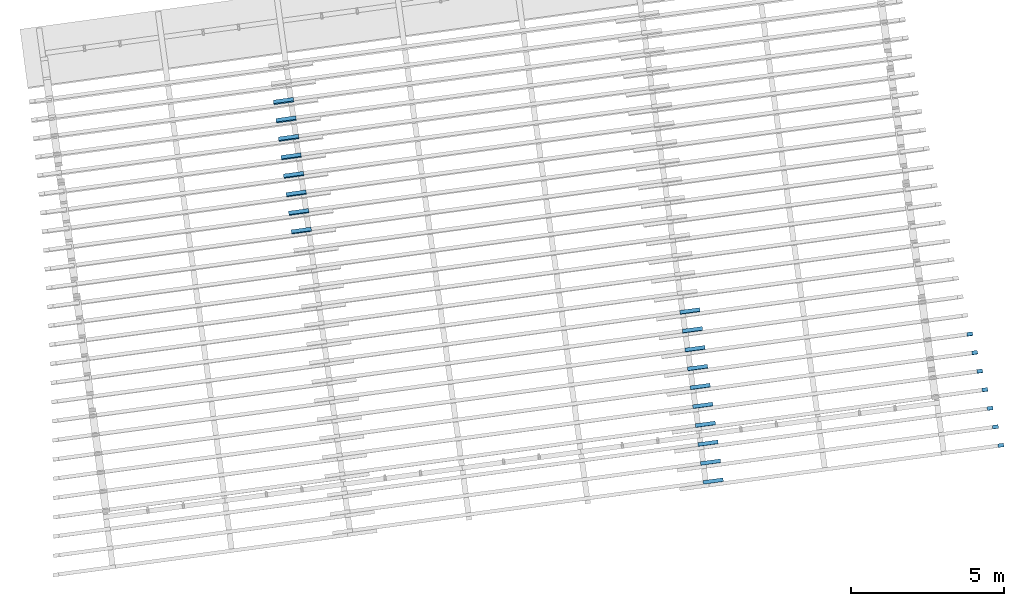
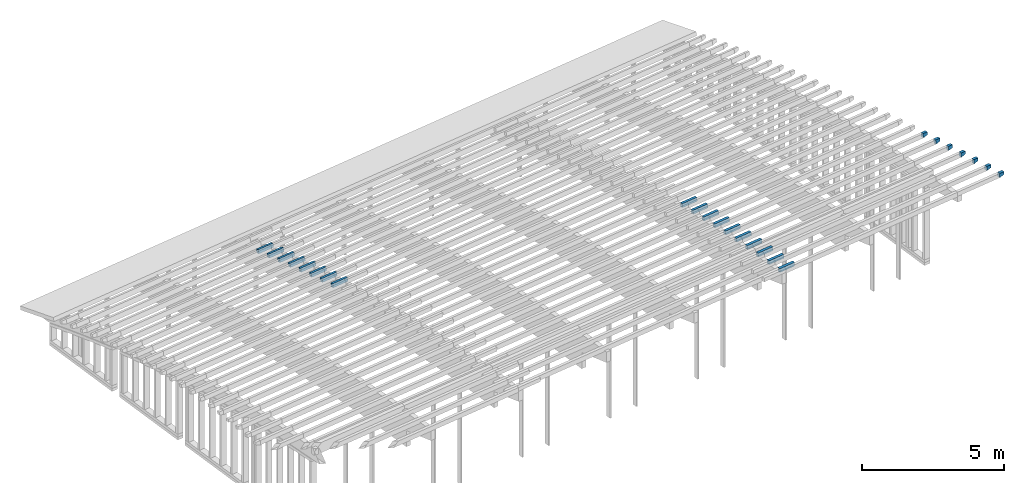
# One storey, part 16 of 18: 25 building element parts, 25 elements without a shape of their own.
"""IFC2X3 building model written with IfcOpenShell, lengths in metres."""

from ifc_helpers import new_model, entity, si_unit, converted_unit, derived_unit, money_unit, direction, frame, origin_with_axes, place, context, subcontext, project, spatial, faceted_brep, material, type_object, element, aggregate, save


model = new_model("IFC2X3")

# Units and contexts
model_context = context("Model", 3, precision=1e-05, world=origin_with_axes(), true_north=direction((0.0, 1.0)))
body_context = subcontext(model_context, "Body", "Model", "MODEL_VIEW")
ifc_project = project(units=[si_unit("LENGTHUNIT", "METRE"), si_unit("AREAUNIT", "SQUARE_METRE"), si_unit("VOLUMEUNIT", "CUBIC_METRE"), converted_unit("PLANEANGLEUNIT", "DEGREE", entity("IfcPlaneAngleMeasure", 0.0174532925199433), si_unit("PLANEANGLEUNIT", "RADIAN"), dimensions=[0, 0, 0, 0, 0, 0, 0]), money_unit("EUR"), converted_unit("TIMEUNIT", "Year", entity("IfcTimeMeasure", 31557600.0), si_unit("TIMEUNIT", "SECOND"), dimensions=[0, 0, 1, 0, 0, 0, 0]), si_unit("MASSUNIT", "GRAM", prefix="KILO"), si_unit("THERMODYNAMICTEMPERATUREUNIT", "DEGREE_CELSIUS"), si_unit("LUMINOUSINTENSITYUNIT", "LUMEN"), si_unit("ENERGYUNIT", "JOULE", prefix="MEGA"), derived_unit("THERMALCONDUCTANCEUNIT", [(si_unit("POWERUNIT", "WATT"), 1), (si_unit("LENGTHUNIT", "METRE"), -1), (si_unit("THERMODYNAMICTEMPERATUREUNIT", "KELVIN"), -1)]), derived_unit("SPECIFICHEATCAPACITYUNIT", [(si_unit("ENERGYUNIT", "JOULE"), 1), (si_unit("MASSUNIT", "GRAM", prefix="KILO"), -1), (si_unit("THERMODYNAMICTEMPERATUREUNIT", "KELVIN"), -1)]), derived_unit("MASSDENSITYUNIT", [(si_unit("MASSUNIT", "GRAM", prefix="KILO"), 1), (si_unit("VOLUMEUNIT", "CUBIC_METRE"), -1)])], contexts=[model_context])

# Site, building, storey
site_placement = place(None, origin_with_axes())
site = spatial("IfcSite", under=ifc_project, at=site_placement, Name="Gelände", CompositionType="ELEMENT")
building_placement = place(site_placement, origin_with_axes())
building = spatial("IfcBuilding", under=site, at=building_placement, Name="Gebäude", CompositionType="ELEMENT")
storey_placement = place(building_placement, frame((0.0, 0.0, 5.5), z_axis=(0.0, 0.0, 1.0), x_axis=(1.0, 0.0, 0.0)))
storey = spatial("IfcBuildingStorey", under=building, at=storey_placement, Name="OG", CompositionType="ELEMENT", Elevation=5.5)

# Beam, building element part
beam_type_1 = type_object("IfcBeamType", Name="Verschiedene Strukturen - 3 Segmente - 120 x 200 x 12890 (660+11570+660)", PredefinedType="NOTDEFINED")
beam_1_placement = place(storey_placement, frame((93.3715612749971, -147.186997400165, 4.781786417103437), z_axis=(0.0, 0.0, 1.0), x_axis=(0.1357111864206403, -0.9907484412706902, 0.0)))
beam_1 = element("IfcBeam", 1, at=beam_1_placement, inside=storey, type_object=beam_type_1, Name="Unterzug-031")
ifc_material = material(Name="Bauholz")
building_element_part_1_placement = place(beam_1_placement, origin_with_axes())
building_element_part_1 = element("IfcBuildingElementPart", 2, at=building_element_part_1_placement, material=ifc_material, Name="Bauholz", context=body_context, shape_type="Brep", body=[
    faceted_brep([(-0.04677414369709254, 12.22957971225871, -0.1643538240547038), (-0.04677414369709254, 12.88957971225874, -0.1643538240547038), (0.07282747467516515, 12.88957971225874, -0.1545838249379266), (0.07282747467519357, 12.22957971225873, -0.1545838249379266), (-0.05980080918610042, 12.22957971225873, -0.004884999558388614), (-0.05980080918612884, 12.88957971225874, -0.004884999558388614), (0.05980080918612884, 12.88957971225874, 0.004884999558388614), (0.05980080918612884, 12.22957971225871, 0.004884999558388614)], [[[0, 1, 2, 3]], [[4, 5, 1, 0]], [[2, 1, 5, 6]], [[3, 2, 6, 7]], [[4, 0, 3, 7]], [[7, 6, 5, 4]]]),
])
aggregate(beam_1, [building_element_part_1])

beam_2_placement = place(storey_placement, frame((93.45616557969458, -147.8046442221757, 4.829528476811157), z_axis=(0.0, 0.0, 1.0), x_axis=(0.1357111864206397, -0.9907484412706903, 0.0)))
beam_2 = element("IfcBeam", 3, at=beam_2_placement, inside=storey, type_object=beam_type_1, Name="Unterzug-031")
building_element_part_2_placement = place(beam_2_placement, origin_with_axes())
building_element_part_2 = element("IfcBuildingElementPart", 4, at=building_element_part_2_placement, material=ifc_material, Name="Bauholz", context=body_context, shape_type="Brep", body=[
    faceted_brep([(-0.04843545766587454, 12.22957971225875, -0.163871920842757), (-0.04843545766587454, 12.88957971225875, -0.163871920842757), (0.07125893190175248, 12.88957971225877, -0.1553131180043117), (0.07125893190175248, 12.22957971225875, -0.1553131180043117), (-0.0598471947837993, 12.22957971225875, -0.004279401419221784), (-0.05984719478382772, 12.88957971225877, -0.004279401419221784), (0.05984719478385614, 12.88957971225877, 0.004279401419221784), (0.05984719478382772, 12.22957971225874, 0.004279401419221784)], [[[0, 1, 2, 3]], [[4, 5, 1, 0]], [[2, 1, 5, 6]], [[3, 2, 6, 7]], [[4, 0, 3, 7]], [[7, 6, 5, 4]]]),
])
aggregate(beam_2, [building_element_part_2])

beam_3_placement = place(storey_placement, frame((93.54083113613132, -148.4227382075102, 4.870957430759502), z_axis=(0.0, 0.0, 1.0), x_axis=(0.135711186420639, -0.9907484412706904, 0.0)))
beam_3 = element("IfcBeam", 5, at=beam_3_placement, inside=storey, type_object=beam_type_1, Name="Unterzug-031")
building_element_part_3_placement = place(beam_3_placement, origin_with_axes())
building_element_part_3 = element("IfcBuildingElementPart", 6, at=building_element_part_3_placement, material=ifc_material, Name="Bauholz", context=body_context, shape_type="Brep", body=[
    faceted_brep([(-0.05009180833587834, 12.22957971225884, -0.1633732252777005), (-0.05009180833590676, 12.88957971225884, -0.1633732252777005), (0.06968308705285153, 12.88957971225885, -0.1560264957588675), (0.06968308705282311, 12.22957971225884, -0.1560264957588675), (-0.05988744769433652, 12.22957971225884, -0.003673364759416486), (-0.05988744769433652, 12.88957971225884, -0.003673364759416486), (0.05988744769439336, 12.88957971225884, 0.003673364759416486), (0.05988744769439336, 12.22957971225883, 0.003673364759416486)], [[[0, 1, 2, 3]], [[4, 5, 1, 0]], [[2, 1, 5, 6]], [[3, 2, 6, 7]], [[4, 0, 3, 7]], [[7, 6, 5, 4]]]),
])
aggregate(beam_3, [building_element_part_3])

beam_type_2 = type_object("IfcBeamType", Name="Verschiedene Strukturen - 4 Segmente - 120 x 200 x 10694 (970+7659+1875+190)", PredefinedType="NOTDEFINED")
beam_4_placement = place(storey_placement, frame((105.3127329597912, -150.0833279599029, 4.984403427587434), z_axis=(0.0, 0.0, 1.0), x_axis=(0.13571118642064, -0.9907484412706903, 0.0)))
beam_4 = element("IfcBeam", 7, at=beam_4_placement, inside=storey, type_object=beam_type_2, Name="Unterzug-031")
building_element_part_4_placement = place(beam_4_placement, origin_with_axes())
building_element_part_4 = element("IfcBuildingElementPart", 8, at=building_element_part_4_placement, material=ifc_material, Name="Bauholz", context=body_context, shape_type="Brep", body=[
    faceted_brep([(0.06119081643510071, 10.69400000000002, -0.1193971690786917), (0.06178770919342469, 10.504, -0.1793941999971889), (-0.05820635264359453, 10.50400000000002, -0.1805879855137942), (-0.05880324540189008, 10.69400000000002, -0.120590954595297), (0.05999703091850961, 10.69400000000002, 0.0005968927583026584), (0.05999703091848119, 10.50400000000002, 0.0005968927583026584), (-0.05999703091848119, 10.504, -0.0005968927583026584), (-0.05999703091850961, 10.69400000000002, -0.0005968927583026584)], [[[0, 1, 2, 3]], [[4, 5, 1, 0]], [[5, 6, 2, 1]], [[3, 2, 6, 7]], [[4, 0, 3, 7]], [[7, 6, 5, 4]]]),
])
aggregate(beam_4, [building_element_part_4])

beam_type_3 = type_object("IfcBeamType", Name="Verschiedene Strukturen - 4 Segmente - 120 x 200 x 10600 (970+7659+1781+190)", PredefinedType="NOTDEFINED")
beam_5_placement = place(storey_placement, frame((105.2280311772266, -149.4649695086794, 4.975930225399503), z_axis=(0.0, 0.0, 1.0), x_axis=(0.1357111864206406, -0.9907484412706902, 0.0)))
beam_5 = element("IfcBeam", 9, at=beam_5_placement, inside=storey, type_object=beam_type_3, Name="Unterzug-031")
building_element_part_5_placement = place(beam_5_placement, origin_with_axes())
building_element_part_5 = element("IfcBuildingElementPart", 10, at=building_element_part_5_placement, material=ifc_material, Name="Bauholz", context=body_context, shape_type="Brep", body=[
    faceted_brep([(0.06216816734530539, 10.59999999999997, -0.1188912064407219), (0.0632571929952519, 10.40999999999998, -0.1788813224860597), (-0.05672303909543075, 10.40999999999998, -0.1810593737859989), (-0.05781206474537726, 10.59999999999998, -0.1210692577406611), (0.05999011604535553, 10.59999999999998, 0.001089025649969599), (0.05999011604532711, 10.40999999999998, 0.001089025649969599), (-0.05999011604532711, 10.40999999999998, -0.001089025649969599), (-0.05999011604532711, 10.59999999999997, -0.001089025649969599)], [[[0, 1, 2, 3]], [[4, 5, 1, 0]], [[5, 6, 2, 1]], [[3, 2, 6, 7]], [[4, 0, 3, 7]], [[7, 6, 5, 4]]]),
])
aggregate(beam_5, [building_element_part_5])

beam_6_placement = place(storey_placement, frame((93.96465668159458, -151.5168420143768, 4.983247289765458), z_axis=(0.0, 0.0, 1.0), x_axis=(0.1357111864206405, -0.9907484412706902, 0.0)))
beam_6 = element("IfcBeam", 11, at=beam_6_placement, inside=storey, type_object=beam_type_1, Name="Unterzug-031")
building_element_part_6_placement = place(beam_6_placement, origin_with_axes())
building_element_part_6 = element("IfcBuildingElementPart", 12, at=building_element_part_6_placement, material=ifc_material, Name="Bauholz", context=body_context, shape_type="Brep", body=[
    faceted_brep([(0.06140154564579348, 12.88957971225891, -0.159209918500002), (0.05981204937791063, 12.88957971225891, 0.0005592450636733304), (0.0598120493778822, 12.2295797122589, 0.0005592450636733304), (0.06140154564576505, 12.22957971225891, -0.159209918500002), (-0.05999485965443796, 12.88957971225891, -0.0007853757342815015), (0.05999485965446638, 12.88957971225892, 0.0007853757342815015), (0.05999779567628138, 12.88957971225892, 0.0005610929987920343), (-0.0579005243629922, 12.88957971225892, -0.160771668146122), (0.05999779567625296, 12.22957971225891, 0.0005610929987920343), (0.05999485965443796, 12.22957971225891, 0.0007853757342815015), (-0.05999485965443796, 12.22957971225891, -0.0007853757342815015), (-0.05790052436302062, 12.22957971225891, -0.160771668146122)], [[[0, 1, 2, 3]], [[4, 5, 6, 1, 0, 7]], [[6, 8, 2, 1]], [[3, 2, 8, 9, 10, 11]], [[0, 3, 11, 7]], [[4, 10, 9, 5]], [[9, 8, 6, 5]], [[7, 11, 10, 4]]]),
])
aggregate(beam_6, [building_element_part_6])

beam_7_placement = place(storey_placement, frame((93.87995743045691, -150.8985020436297, 4.973518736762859), z_axis=(0.0, 0.0, 1.0), x_axis=(0.1357111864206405, -0.9907484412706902, 0.0)))
beam_7 = element("IfcBeam", 13, at=beam_7_placement, inside=storey, type_object=beam_type_1, Name="Unterzug-031")
building_element_part_7_placement = place(beam_7_placement, origin_with_axes())
building_element_part_7 = element("IfcBuildingElementPart", 14, at=building_element_part_7_placement, material=ifc_material, Name="Bauholz", context=body_context, shape_type="Brep", body=[
    faceted_brep([(0.06270584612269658, 12.40763277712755, -0.1587319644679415), (0.06270437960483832, 12.40763277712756, -0.1586511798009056), (0.06330828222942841, 12.40763277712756, -0.1586402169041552), (0.063309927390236, 12.40763277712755, -0.158719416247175), (0.05980176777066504, 12.88957971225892, 0.001242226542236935), (0.05980176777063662, 12.22957971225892, 0.001242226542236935), (0.06270437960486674, 12.22957971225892, -0.1586511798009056), (0.06270584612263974, 12.88957971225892, -0.1587319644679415), (0.06330828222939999, 12.22957971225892, -0.1586402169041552), (0.06330992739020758, 12.22957971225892, -0.158719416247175), (-0.05666419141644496, 12.88957971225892, -0.1612115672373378), (-0.05666419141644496, 12.22957971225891, -0.1612115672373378), (-0.05998705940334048, 12.22957971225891, -0.001246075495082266), (-0.05998705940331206, 12.88957971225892, -0.001246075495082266)], [[[0, 1, 2, 3]], [[4, 5, 6, 1, 0, 7]], [[6, 8, 2, 1]], [[3, 2, 8, 9]], [[10, 7, 0, 3, 9, 11]], [[12, 5, 4, 13]], [[8, 6, 5, 12, 11, 9]], [[10, 13, 4, 7]], [[10, 11, 12, 13]]]),
])
aggregate(beam_7, [building_element_part_7])

beam_8_placement = place(storey_placement, frame((93.79513367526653, -150.2792531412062, 4.957376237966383), z_axis=(0.0, 0.0, 1.0), x_axis=(0.1357111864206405, -0.9907484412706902, 0.0)))
beam_8 = element("IfcBeam", 15, at=beam_8_placement, inside=storey, type_object=beam_type_1, Name="Unterzug-031")
building_element_part_8_placement = place(beam_8_placement, origin_with_axes())
building_element_part_8 = element("IfcBuildingElementPart", 16, at=building_element_part_8_placement, material=ifc_material, Name="Bauholz", context=body_context, shape_type="Brep", body=[
    faceted_brep([(-0.0550293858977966, 12.22957971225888, -0.1617769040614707), (-0.0550293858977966, 12.88957971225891, -0.1617769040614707), (0.064913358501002, 12.88957971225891, -0.158070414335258), (0.06491335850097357, 12.22957971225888, -0.158070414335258), (-0.05997137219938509, 12.22957971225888, -0.00185324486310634), (-0.05997137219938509, 12.88957971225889, -0.00185324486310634), (0.05997137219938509, 12.88957971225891, 0.00185324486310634), (0.05997137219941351, 12.22957971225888, 0.00185324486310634)], [[[0, 1, 2, 3]], [[4, 5, 1, 0]], [[2, 1, 5, 6]], [[3, 2, 6, 7]], [[4, 0, 3, 7]], [[7, 6, 5, 4]]]),
])
aggregate(beam_8, [building_element_part_8])

beam_type_4 = type_object("IfcBeamType", Name="Verschiedene Strukturen - 4 Segmente - 120 x 200 x 10509 (970+7659+1690+190)", PredefinedType="NOTDEFINED")
beam_9_placement = place(storey_placement, frame((105.1432004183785, -148.8456694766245, 4.960992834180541), z_axis=(0.0, 0.0, 1.0), x_axis=(0.1357111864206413, -0.9907484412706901, 0.0)))
beam_9 = element("IfcBeam", 17, at=beam_9_placement, inside=storey, type_object=beam_type_4, Name="Unterzug-031")
building_element_part_9_placement = place(beam_9_placement, origin_with_axes())
building_element_part_9 = element("IfcBuildingElementPart", 18, at=building_element_part_9_placement, material=ifc_material, Name="Bauholz", context=body_context, shape_type="Brep", body=[
    faceted_brep([(0.06345102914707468, 10.50900000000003, -0.118211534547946), (0.06518913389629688, 10.319, -0.1781863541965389), (-0.0547605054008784, 10.319, -0.1816625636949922), (-0.0564986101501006, 10.50900000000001, -0.1216877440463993), (0.05997481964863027, 10.50900000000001, 0.001738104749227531), (0.05997481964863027, 10.319, 0.001738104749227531), (-0.05997481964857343, 10.319, -0.001738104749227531), (-0.05997481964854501, 10.50900000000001, -0.001738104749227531)], [[[0, 1, 2, 3]], [[4, 5, 1, 0]], [[5, 6, 2, 1]], [[3, 2, 6, 7]], [[4, 0, 3, 7]], [[7, 6, 5, 4]]]),
])
aggregate(beam_9, [building_element_part_9])

beam_10_placement = place(storey_placement, frame((93.20257109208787, -145.9532983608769, 4.667383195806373), z_axis=(0.0, 0.0, 1.0), x_axis=(0.1357111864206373, -0.9907484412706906, 0.0)))
beam_10 = element("IfcBeam", 19, at=beam_10_placement, inside=storey, type_object=beam_type_1, Name="Unterzug-031")
building_element_part_10_placement = place(beam_10_placement, origin_with_axes())
building_element_part_10 = element("IfcBuildingElementPart", 20, at=building_element_part_10_placement, material=ifc_material, Name="Bauholz", context=body_context, shape_type="Brep", body=[
    faceted_brep([(-0.04343730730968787, 12.22957971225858, -0.1652670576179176), (-0.04343730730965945, 12.88957971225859, -0.1652670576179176), (0.07594201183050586, 12.88957971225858, -0.1530777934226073), (0.07594201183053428, 12.22957971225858, -0.1530777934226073), (-0.05968965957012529, 12.22957971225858, -0.00609463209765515), (-0.05968965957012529, 12.88957971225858, -0.00609463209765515), (0.05968965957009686, 12.88957971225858, 0.00609463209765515), (0.05968965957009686, 12.22957971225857, 0.00609463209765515)], [[[0, 1, 2, 3]], [[4, 5, 1, 0]], [[2, 1, 5, 6]], [[3, 2, 6, 7]], [[4, 0, 3, 7]], [[7, 6, 5, 4]]]),
])
aggregate(beam_10, [building_element_part_10])

beam_11_placement = place(storey_placement, frame((93.2870268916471, -146.5698610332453, 4.727736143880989), z_axis=(0.0, 0.0, 1.0), x_axis=(0.1357111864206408, -0.9907484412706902, 0.0)))
beam_11 = element("IfcBeam", 21, at=beam_11_placement, inside=storey, type_object=beam_type_1, Name="Unterzug-031")
building_element_part_11_placement = place(beam_11_placement, origin_with_axes())
building_element_part_11 = element("IfcBuildingElementPart", 22, at=building_element_part_11_placement, material=ifc_material, Name="Bauholz", context=body_context, shape_type="Brep", body=[
    faceted_brep([(-0.04510803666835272, 12.22957971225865, -0.1648188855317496), (-0.04510803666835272, 12.88957971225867, -0.1648188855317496), (0.07438855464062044, 12.88957971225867, -0.1538386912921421), (0.07438855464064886, 12.22957971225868, -0.1538386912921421), (-0.05974829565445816, 12.22957971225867, -0.00549009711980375), (-0.05974829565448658, 12.88957971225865, -0.00549009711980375), (0.05974829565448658, 12.88957971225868, 0.00549009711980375), (0.05974829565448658, 12.22957971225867, 0.00549009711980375)], [[[0, 1, 2, 3]], [[4, 5, 1, 0]], [[2, 1, 5, 6]], [[3, 2, 6, 7]], [[4, 0, 3, 7]], [[7, 6, 5, 4]]]),
])
aggregate(beam_11, [building_element_part_11])

beam_12_placement = place(storey_placement, frame((92.03326752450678, -137.4168930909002, 3.165295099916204), z_axis=(0.0, 0.0, 1.0), x_axis=(0.1357111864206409, -0.9907484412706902, 0.0)))
beam_12 = element("IfcBeam", 23, at=beam_12_placement, inside=storey, type_object=beam_type_1, Name="Unterzug-031")
building_element_part_12_placement = place(beam_12_placement, origin_with_axes())
building_element_part_12 = element("IfcBuildingElementPart", 24, at=building_element_part_12_placement, material=ifc_material, Name="Bauholz", context=body_context, shape_type="Brep", body=[
    faceted_brep([(0.0969278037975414, 0.6599999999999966, -0.1407302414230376), (0.0969278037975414, 0.0, -0.1407302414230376), (-0.01950715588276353, 0.0, -0.1697629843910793), (-0.01950715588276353, 0.6599999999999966, -0.1697629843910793), (0.05821747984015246, 0.6599999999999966, 0.01451637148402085), (0.05821747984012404, 0.0, 0.01451637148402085), (-0.05821747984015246, 0.0, -0.01451637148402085), (-0.05821747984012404, 0.6599999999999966, -0.01451637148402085)], [[[0, 1, 2, 3]], [[4, 5, 1, 0]], [[1, 5, 6, 2]], [[3, 2, 6, 7]], [[7, 4, 0, 3]], [[7, 6, 5, 4]]]),
])
aggregate(beam_12, [building_element_part_12])

beam_13_placement = place(storey_placement, frame((92.11571971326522, -138.0188285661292, 3.312943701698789), z_axis=(0.0, 0.0, 1.0), x_axis=(0.1357111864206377, -0.9907484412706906, 0.0)))
beam_13 = element("IfcBeam", 25, at=beam_13_placement, inside=storey, type_object=beam_type_1, Name="Unterzug-031")
building_element_part_13_placement = place(beam_13_placement, origin_with_axes())
building_element_part_13 = element("IfcBuildingElementPart", 26, at=building_element_part_13_placement, material=ifc_material, Name="Bauholz", context=body_context, shape_type="Brep", body=[
    faceted_brep([(0.09543304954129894, 0.6599999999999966, -0.1417481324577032), (0.09543304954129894, 0.0, -0.1417481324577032), (-0.02130263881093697, 0.0, -0.1695470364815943), (-0.02130263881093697, 0.6599999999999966, -0.1695470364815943), (0.05836784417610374, 0.6599999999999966, 0.01389945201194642), (0.05836784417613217, 0.0, 0.01389945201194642), (-0.05836784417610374, 0.0, -0.01389945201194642), (-0.05836784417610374, 0.6599999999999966, -0.01389945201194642)], [[[0, 1, 2, 3]], [[4, 5, 1, 0]], [[1, 5, 6, 2]], [[3, 2, 6, 7]], [[7, 4, 0, 3]], [[7, 6, 5, 4]]]),
])
aggregate(beam_13, [building_element_part_13])

beam_14_placement = place(storey_placement, frame((92.19837051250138, -138.6222139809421, 3.454434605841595), z_axis=(0.0, 0.0, 1.0), x_axis=(0.1357111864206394, -0.9907484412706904, 0.0)))
beam_14 = element("IfcBeam", 27, at=beam_14_placement, inside=storey, type_object=beam_type_1, Name="Unterzug-031")
building_element_part_14_placement = place(beam_14_placement, origin_with_axes())
building_element_part_14 = element("IfcBuildingElementPart", 28, at=building_element_part_14_placement, material=ifc_material, Name="Bauholz", context=body_context, shape_type="Brep", body=[
    faceted_brep([(0.09392725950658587, 0.6600000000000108, -0.1427503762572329), (0.09392725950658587, 0.0, -0.1427503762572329), (-0.0230961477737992, 0.0, -0.1693120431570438), (-0.0230961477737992, 0.6600000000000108, -0.1693120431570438), (0.05851170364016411, 0.660000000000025, 0.01328083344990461), (0.05851170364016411, 0.0, 0.01328083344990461), (-0.05851170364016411, 0.0, -0.01328083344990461), (-0.05851170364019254, 0.6600000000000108, -0.01328083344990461)], [[[0, 1, 2, 3]], [[4, 5, 1, 0]], [[1, 5, 6, 2]], [[3, 2, 6, 7]], [[7, 4, 0, 3]], [[7, 6, 5, 4]]]),
])
aggregate(beam_14, [building_element_part_14])

beam_15_placement = place(storey_placement, frame((92.28121145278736, -139.2269875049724, 3.589753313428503), z_axis=(0.0, 0.0, 1.0), x_axis=(0.1357111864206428, -0.9907484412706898, 0.0)))
beam_15 = element("IfcBeam", 29, at=beam_15_placement, inside=storey, type_object=beam_type_1, Name="Unterzug-031")
building_element_part_15_placement = place(beam_15_placement, origin_with_axes())
building_element_part_15 = element("IfcBuildingElementPart", 30, at=building_element_part_15_placement, material=ifc_material, Name="Bauholz", context=body_context, shape_type="Brep", body=[
    faceted_brep([(0.09241126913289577, 0.6600000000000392, -0.1437364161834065), (0.09241126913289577, 0.0, -0.1437364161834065), (-0.02488668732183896, 0.0, -0.1690581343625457), (-0.02488668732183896, 0.660000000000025, -0.1690581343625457), (0.05864897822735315, 0.6600000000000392, 0.0126608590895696), (0.05864897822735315, 0.0, 0.0126608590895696), (-0.05864897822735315, 0.0, -0.0126608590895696), (-0.05864897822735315, 0.660000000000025, -0.0126608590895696)], [[[0, 1, 2, 3]], [[4, 5, 1, 0]], [[1, 5, 6, 2]], [[3, 2, 6, 7]], [[7, 4, 0, 3]], [[7, 6, 5, 4]]]),
])
aggregate(beam_15, [building_element_part_15])

beam_16_placement = place(storey_placement, frame((92.36423404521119, -139.8330871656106, 3.718885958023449), z_axis=(0.0, 0.0, 1.0), x_axis=(0.1357111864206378, -0.9907484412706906, 0.0)))
beam_16 = element("IfcBeam", 31, at=beam_16_placement, inside=storey, type_object=beam_type_1, Name="Unterzug-031")
building_element_part_16_placement = place(beam_16_placement, origin_with_axes())
building_element_part_16 = element("IfcBuildingElementPart", 32, at=building_element_part_16_placement, material=ifc_material, Name="Bauholz", context=body_context, shape_type="Brep", body=[
    faceted_brep([(-0.02667492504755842, 0.0, -0.1687852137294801), (-0.02667492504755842, 0.6599999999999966, -0.1687852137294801), (0.09088451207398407, 0.6599999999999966, -0.14470661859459), (0.09088451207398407, 0.0, -0.14470661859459), (-0.0587797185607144, 0.0, -0.01203929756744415), (-0.05877971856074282, 0.6600000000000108, -0.01203929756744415), (0.05877971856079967, 0.6599999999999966, 0.01203929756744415), (0.05877971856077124, 0.0, 0.01203929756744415)], [[[0, 1, 2, 3]], [[4, 5, 1, 0]], [[2, 1, 5, 6]], [[3, 2, 6, 7]], [[4, 0, 3, 7]], [[7, 6, 5, 4]]]),
])
aggregate(beam_16, [building_element_part_16])

beam_17_placement = place(storey_placement, frame((92.44742978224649, -140.4404508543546, 3.841819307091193), z_axis=(0.0, 0.0, 1.0), x_axis=(0.1357111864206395, -0.9907484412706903, 0.0)))
beam_17 = element("IfcBeam", 33, at=beam_17_placement, inside=storey, type_object=beam_type_1, Name="Unterzug-031")
building_element_part_17_placement = place(beam_17_placement, origin_with_axes())
building_element_part_17 = element("IfcBuildingElementPart", 34, at=building_element_part_17_placement, material=ifc_material, Name="Bauholz", context=body_context, shape_type="Brep", body=[
    faceted_brep([(0.08934784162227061, 0.6599999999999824, -0.1456604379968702), (0.08934784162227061, 0.0, -0.1456604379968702), (-0.02845985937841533, 0.0, -0.1684934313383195), (-0.02845985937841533, 0.6599999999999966, -0.1684934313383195), (0.05890385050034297, 0.6599999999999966, 0.01141649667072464), (0.05890385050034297, 0.0, 0.01141649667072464), (-0.05890385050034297, 0.0, -0.01141649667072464), (-0.05890385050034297, 0.6599999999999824, -0.01141649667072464)], [[[0, 1, 2, 3]], [[4, 5, 1, 0]], [[1, 5, 6, 2]], [[3, 2, 6, 7]], [[7, 4, 0, 3]], [[7, 6, 5, 4]]]),
])
aggregate(beam_17, [building_element_part_17])

beam_18_placement = place(storey_placement, frame((92.5307901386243, -141.0490163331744, 3.958540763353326), z_axis=(0.0, 0.0, 1.0), x_axis=(0.1357111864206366, -0.9907484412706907, 0.0)))
beam_18 = element("IfcBeam", 35, at=beam_18_placement, inside=storey, type_object=beam_type_1, Name="Unterzug-031")
building_element_part_18_placement = place(beam_18_placement, origin_with_axes())
building_element_part_18 = element("IfcBuildingElementPart", 36, at=building_element_part_18_placement, material=ifc_material, Name="Bauholz", context=body_context, shape_type="Brep", body=[
    faceted_brep([(0.05900101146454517, 0.660000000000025, 0.01090324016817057), (0.05980236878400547, 0.660000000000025, 0.006566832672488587), (0.08778810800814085, 0.660000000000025, -0.1464819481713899), (0.08807568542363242, 0.6599961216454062, -0.1464293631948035), (-0.0299257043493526, 0.6600000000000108, -0.1682392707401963), (-0.05900101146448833, 0.6600000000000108, -0.01090324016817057), (0.05900848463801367, 0.4819469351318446, 0.0109084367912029), (0.08778810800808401, 0.4819469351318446, -0.1464819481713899), (0.05900851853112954, 0.0, 0.0109084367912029), (0.08778857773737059, 0.0, -0.1464859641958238), (0.08807568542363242, 0.4819469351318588, -0.1464293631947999), (-0.02992570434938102, 0.0, -0.1682392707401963), (-0.05900101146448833, 0.0, -0.01090324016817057)], [[[0, 1, 2, 3, 4, 5]], [[0, 6, 1]], [[7, 2, 1, 6, 8, 9]], [[10, 3, 2, 7]], [[11, 4, 3, 10, 7, 9]], [[12, 5, 4, 11]], [[5, 8, 0]], [[6, 0, 8]], [[9, 8, 12, 11]], [[12, 8, 5]]]),
])
aggregate(beam_18, [building_element_part_18])

beam_19_placement = place(storey_placement, frame((92.61430657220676, -141.6587212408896, 4.069038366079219), z_axis=(0.0, 0.0, 1.0), x_axis=(0.1357111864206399, -0.9907484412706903, 0.0)))
beam_19 = element("IfcBeam", 37, at=beam_19_placement, inside=storey, type_object=beam_type_1, Name="Unterzug-031")
building_element_part_19_placement = place(beam_19_placement, origin_with_axes())
building_element_part_19 = element("IfcBuildingElementPart", 38, at=building_element_part_19_placement, material=ifc_material, Name="Bauholz", context=body_context, shape_type="Brep", body=[
    faceted_brep([(0.05910835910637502, 0.6599999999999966, 0.01030542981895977), (0.05939163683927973, 0.6599999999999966, 0.00868064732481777), (0.08620715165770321, 0.6600000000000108, -0.1472810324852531), (0.0865723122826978, 0.6600000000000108, -0.1472182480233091), (0.08658950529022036, 0.6600000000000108, -0.1473168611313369), (-0.03162721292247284, 0.6599999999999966, -0.1679277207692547), (-0.05910835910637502, 0.6600000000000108, -0.01030542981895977), (0.05911216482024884, 0.4819469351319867, 0.01030608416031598), (0.08622426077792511, 0.4819469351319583, -0.147380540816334), (0.08620715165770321, 0.4819469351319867, -0.1472810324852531), (0.05911190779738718, 0.0, 0.01030603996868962), (0.08622400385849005, 0.0, -0.1473805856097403), (0.08657231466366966, 0.4819469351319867, -0.1472182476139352), (0.08658950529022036, 0.4819469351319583, -0.1473168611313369), (-0.03162721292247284, 0.0, -0.1679277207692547), (-0.05910835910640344, 0.0, -0.01030542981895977)], [[[0, 1, 2, 3, 4, 5, 6]], [[0, 7, 1]], [[8, 9, 2, 1, 7, 10, 11]], [[9, 12, 3, 2]], [[4, 3, 12, 13]], [[14, 5, 4, 13, 8, 11]], [[15, 6, 5, 14]], [[7, 0, 6, 15, 10]], [[13, 12, 9, 8]], [[11, 10, 15, 14]]]),
])
aggregate(beam_19, [building_element_part_19])

beam_type_5 = type_object("IfcBeamType", Name="Verschiedene Strukturen - 4 Segmente - 120 x 200 x 10426 (970+7659+1607+190)", PredefinedType="NOTDEFINED")
beam_20_placement = place(storey_placement, frame((105.0584006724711, -148.2265958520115, 4.939661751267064), z_axis=(0.0, 0.0, 1.0), x_axis=(0.1357111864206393, -0.9907484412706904, 0.0)))
beam_20 = element("IfcBeam", 39, at=beam_20_placement, inside=storey, type_object=beam_type_5, Name="Unterzug-031")
building_element_part_20_placement = place(beam_20_placement, origin_with_axes())
building_element_part_20 = element("IfcBuildingElementPart", 40, at=building_element_part_20_placement, material=ifc_material, Name="Bauholz", context=body_context, shape_type="Brep", body=[
    faceted_brep([(0.04300199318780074, 10.42626930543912, -0.1184298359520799), (0.04300199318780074, 10.42626930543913, 0.001659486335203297), (0.05995537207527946, 10.42626930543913, 0.002313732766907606), (0.06458283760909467, 10.42626930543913, -0.1175970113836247), (-0.05995537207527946, 10.41257922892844, -0.002313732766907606), (-0.05516894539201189, 10.41321567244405, -0.1263436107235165), (-0.05995537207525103, 10.23626930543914, -0.002313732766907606), (0.05995537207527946, 10.23626930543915, 0.002313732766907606), (0.06689657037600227, 10.23626930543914, -0.1775523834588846), (-0.05301417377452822, 10.23626930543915, -0.1821798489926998)], [[[0, 1, 2, 3]], [[4, 1, 0, 5]], [[1, 4, 6, 7, 2]], [[3, 2, 7, 8]], [[5, 0, 3, 8, 9]], [[4, 5, 9, 6]], [[8, 7, 6, 9]]]),
])
aggregate(beam_20, [building_element_part_20])

beam_type_6 = type_object("IfcBeamType", Name="Verschiedene Strukturen - 4 Segmente - 120 x 200 x 10342 (970+7659+1523+190)", PredefinedType="NOTDEFINED")
beam_21_placement = place(storey_placement, frame((104.9736313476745, -147.6077443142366, 4.912074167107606), z_axis=(0.0, 0.0, 1.0), x_axis=(0.1357111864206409, -0.9907484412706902, 0.0)))
beam_21 = element("IfcBeam", 41, at=beam_21_placement, inside=storey, type_object=beam_type_6, Name="Unterzug-031")
building_element_part_21_placement = place(beam_21_placement, origin_with_axes())
building_element_part_21 = element("IfcBuildingElementPart", 42, at=building_element_part_21_placement, material=ifc_material, Name="Bauholz", context=body_context, shape_type="Brep", body=[
    faceted_brep([(0.03345198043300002, 10.34194335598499, -0.1185073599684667), (0.03345198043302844, 10.34194335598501, 0.001636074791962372), (0.05992836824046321, 10.34194335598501, 0.002930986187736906), (0.06579034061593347, 10.34194335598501, -0.1169257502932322), (-0.05992836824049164, 10.32952672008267, -0.002930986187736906), (-0.05388724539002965, 10.33032999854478, -0.1264507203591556), (-0.05992836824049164, 10.15194335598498, -0.002930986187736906), (0.05992836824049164, 10.151943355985, 0.002930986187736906), (0.06872132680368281, 10.151943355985, -0.176854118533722), (-0.05113540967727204, 10.15194335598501, -0.1827160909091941)], [[[0, 1, 2, 3]], [[4, 1, 0, 5]], [[1, 4, 6, 7, 2]], [[3, 2, 7, 8]], [[5, 0, 3, 8, 9]], [[4, 5, 9, 6]], [[8, 7, 6, 9]]]),
])
aggregate(beam_21, [building_element_part_21])

beam_type_7 = type_object("IfcBeamType", Name="Verschiedene Strukturen - 4 Segmente - 120 x 200 x 10261 (970+7659+1442+190)", PredefinedType="NOTDEFINED")
beam_22_placement = place(storey_placement, frame((104.8889035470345, -146.9891959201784, 4.878264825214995), z_axis=(0.0, 0.0, 1.0), x_axis=(0.1357111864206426, -0.99074844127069, 0.0)))
beam_22 = element("IfcBeam", 43, at=beam_22_placement, inside=storey, type_object=beam_type_7, Name="Unterzug-031")
building_element_part_22_placement = place(beam_22_placement, origin_with_axes())
building_element_part_22 = element("IfcBuildingElementPart", 44, at=building_element_part_22_placement, material=ifc_material, Name="Bauholz", context=body_context, shape_type="Brep", body=[
    faceted_brep([(0.03542206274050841, 10.26111797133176, -0.1181071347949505), (0.03542206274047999, 10.26111797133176, 0.00210445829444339), (0.05989438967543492, 10.26111797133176, 0.00355838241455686), (0.06701115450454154, 10.26111797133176, -0.1162303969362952), (-0.0598943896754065, 10.2493430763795, -0.00355838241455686), (-0.05257403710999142, 10.25024739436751, -0.1267739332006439), (-0.0598943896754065, 10.07111797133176, -0.00355838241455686), (0.05989438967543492, 10.07111797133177, 0.00355838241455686), (0.07056953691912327, 10.07111797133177, -0.1761247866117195), (-0.049219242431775, 10.07111797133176, -0.183241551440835)], [[[0, 1, 2, 3]], [[4, 1, 0, 5]], [[1, 4, 6, 7, 2]], [[3, 2, 7, 8]], [[5, 0, 3, 8, 9]], [[4, 5, 9, 6]], [[8, 7, 6, 9]]]),
])
aggregate(beam_22, [building_element_part_22])

beam_type_8 = type_object("IfcBeamType", Name="Verschiedene Strukturen - 4 Segmente - 120 x 200 x 10184 (970+7659+1365+190)", PredefinedType="NOTDEFINED")
beam_23_placement = place(storey_placement, frame((104.8042278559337, -146.3710279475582, 4.837969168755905), z_axis=(0.0, 0.0, 1.0), x_axis=(0.1357111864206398, -0.9907484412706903, 0.0)))
beam_23 = element("IfcBeam", 45, at=beam_23_placement, inside=storey, type_object=beam_type_8, Name="Unterzug-031")
building_element_part_23_placement = place(beam_23_placement, origin_with_axes())
building_element_part_23 = element("IfcBuildingElementPart", 46, at=building_element_part_23_placement, material=ifc_material, Name="Bauholz", context=body_context, shape_type="Brep", body=[
    faceted_brep([(0.0333482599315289, 10.18378345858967, -0.117983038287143), (0.03334825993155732, 10.18378345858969, 0.002302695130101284), (0.05985747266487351, 10.18378345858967, 0.004133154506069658), (0.06812378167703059, 10.18378345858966, -0.1155817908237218), (-0.05985747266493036, 10.17226931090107, -0.004133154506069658), (-0.05136351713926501, 10.17331860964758, -0.1271449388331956), (-0.05985747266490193, 9.993783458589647, -0.004133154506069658), (0.05985747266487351, 9.993783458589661, 0.004133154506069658), (0.07225693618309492, 9.993783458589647, -0.1754392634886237), (-0.04745800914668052, 9.993783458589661, -0.183705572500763)], [[[0, 1, 2, 3]], [[4, 1, 0, 5]], [[1, 4, 6, 7, 2]], [[3, 2, 7, 8]], [[5, 0, 3, 8, 9]], [[4, 5, 9, 6]], [[8, 7, 6, 9]]]),
])
aggregate(beam_23, [building_element_part_23])

beam_24_placement = place(storey_placement, frame((93.71031129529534, -149.66001427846, 4.934859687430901), z_axis=(0.0, 0.0, 1.0), x_axis=(0.1357111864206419, -0.99074844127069, 0.0)))
beam_24 = element("IfcBeam", 47, at=beam_24_placement, inside=storey, type_object=beam_type_1, Name="Unterzug-031")
building_element_part_24_placement = place(beam_24_placement, origin_with_axes())
building_element_part_24 = element("IfcBuildingElementPart", 48, at=building_element_part_24_placement, material=ifc_material, Name="Bauholz", context=body_context, shape_type="Brep", body=[
    faceted_brep([(-0.05338894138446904, 12.229579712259, -0.1623256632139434), (-0.05338894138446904, 12.88957971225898, -0.1623256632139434), (0.06651013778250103, 12.88957971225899, -0.1574052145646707), (0.06651013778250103, 12.229579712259, -0.1574052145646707), (-0.05994953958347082, 12.229579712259, -0.002460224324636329), (-0.05994953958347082, 12.88957971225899, -0.002460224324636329), (0.05994953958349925, 12.88957971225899, 0.002460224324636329), (0.05994953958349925, 12.229579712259, 0.002460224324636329)], [[[0, 1, 2, 3]], [[4, 5, 1, 0]], [[2, 1, 5, 6]], [[3, 2, 6, 7]], [[4, 0, 3, 7]], [[7, 6, 5, 4]]]),
])
aggregate(beam_24, [building_element_part_24])

beam_25_placement = place(storey_placement, frame((93.62554926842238, -149.0412160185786, 4.906069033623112), z_axis=(0.0, 0.0, 1.0), x_axis=(0.1357111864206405, -0.9907484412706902, 0.0)))
beam_25 = element("IfcBeam", 49, at=beam_25_placement, inside=storey, type_object=beam_type_1, Name="Unterzug-031")
building_element_part_25_placement = place(beam_25_placement, origin_with_axes())
building_element_part_25 = element("IfcBuildingElementPart", 50, at=building_element_part_25_placement, material=ifc_material, Name="Bauholz", context=body_context, shape_type="Brep", body=[
    faceted_brep([(-0.05171460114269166, 12.22957971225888, -0.1628668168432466), (-0.05171460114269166, 12.88957971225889, -0.1628668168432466), (0.06812745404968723, 12.88957971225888, -0.156711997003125), (0.06812745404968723, 12.2295797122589, -0.156711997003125), (-0.05992102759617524, 12.22957971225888, -0.003077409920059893), (-0.05992102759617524, 12.88957971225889, -0.003077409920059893), (0.05992102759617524, 12.88957971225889, 0.003077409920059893), (0.05992102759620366, 12.2295797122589, 0.003077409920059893)], [[[0, 1, 2, 3]], [[4, 5, 1, 0]], [[2, 1, 5, 6]], [[3, 2, 6, 7]], [[4, 0, 3, 7]], [[7, 6, 5, 4]]]),
])
aggregate(beam_25, [building_element_part_25])

save(model, "model.ifc")
